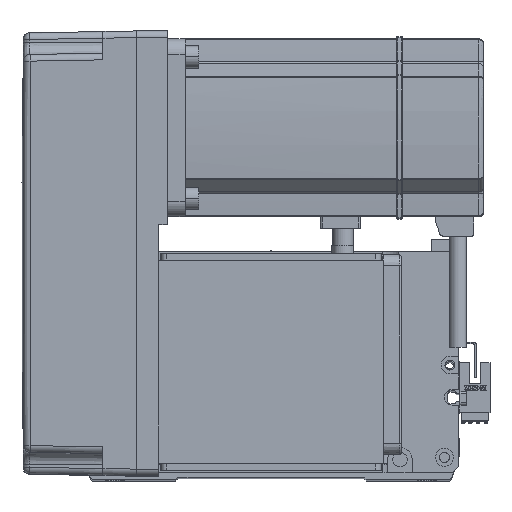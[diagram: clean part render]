
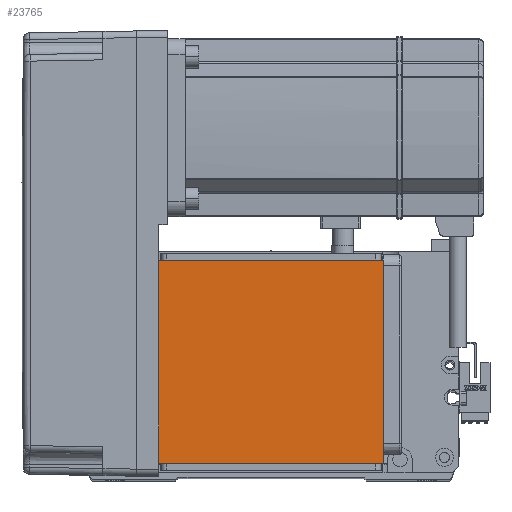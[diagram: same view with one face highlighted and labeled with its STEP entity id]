
A CAD part, top view. The second image highlights one B-rep face of the part: STEP entity #23765.
In plain terms, the highlighted planar face has unit normal (0, 0, 1).
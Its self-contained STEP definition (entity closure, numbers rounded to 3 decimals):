
#2901 = LINE ( 'NONE', #38821, #51304 ) ;
#4898 = EDGE_CURVE ( 'NONE', #30848, #42872, #2901, .T. ) ;
#7029 = DIRECTION ( 'NONE',  ( 0., 1., 0. ) ) ;
#7898 = EDGE_LOOP ( 'NONE', ( #49418, #32927, #21677, #44386 ) ) ;
#8182 = VECTOR ( 'NONE', #48693, 1000. ) ;
#10110 = VERTEX_POINT ( 'NONE', #45489 ) ;
#12083 = CARTESIAN_POINT ( 'NONE',  ( -50.5, 20., 115. ) ) ;
#12234 = LINE ( 'NONE', #48514, #8182 ) ;
#17072 = LINE ( 'NONE', #39555, #19769 ) ;
#19676 = LINE ( 'NONE', #32774, #43945 ) ;
#19769 = VECTOR ( 'NONE', #48011, 1000. ) ;
#21677 = ORIENTED_EDGE ( 'NONE', *, *, #4898, .F. ) ;
#22035 = DIRECTION ( 'NONE',  ( -1., 0., 0. ) ) ;
#23765 = ADVANCED_FACE ( 'NONE', ( #29493 ), #45313, .T. ) ;
#24050 = DIRECTION ( 'NONE',  ( 0., 0., 1. ) ) ;
#28214 = EDGE_CURVE ( 'NONE', #53587, #10110, #12234, .T. ) ;
#29493 = FACE_OUTER_BOUND ( 'NONE', #7898, .T. ) ;
#30848 = VERTEX_POINT ( 'NONE', #32257 ) ;
#32257 = CARTESIAN_POINT ( 'NONE',  ( 50.5, 20., 115. ) ) ;
#32774 = CARTESIAN_POINT ( 'NONE',  ( 50.5, 122., 115. ) ) ;
#32927 = ORIENTED_EDGE ( 'NONE', *, *, #55221, .T. ) ;
#37789 = DIRECTION ( 'NONE',  ( 1., 0., 0. ) ) ;
#38821 = CARTESIAN_POINT ( 'NONE',  ( -70.004, 20., 115. ) ) ;
#39555 = CARTESIAN_POINT ( 'NONE',  ( -50.5, 122., 115. ) ) ;
#42754 = EDGE_CURVE ( 'NONE', #30848, #10110, #19676, .T. ) ;
#42872 = VERTEX_POINT ( 'NONE', #12083 ) ;
#43945 = VECTOR ( 'NONE', #7029, 1000. ) ;
#44386 = ORIENTED_EDGE ( 'NONE', *, *, #42754, .T. ) ;
#45313 = PLANE ( 'NONE',  #49665 ) ;
#45489 = CARTESIAN_POINT ( 'NONE',  ( 50.5, 111.5, 115. ) ) ;
#46364 = CARTESIAN_POINT ( 'NONE',  ( -50.5, 111.5, 115. ) ) ;
#48011 = DIRECTION ( 'NONE',  ( 0., -1., 0. ) ) ;
#48514 = CARTESIAN_POINT ( 'NONE',  ( -70.004, 111.5, 115. ) ) ;
#48693 = DIRECTION ( 'NONE',  ( 1., 0., 0. ) ) ;
#49418 = ORIENTED_EDGE ( 'NONE', *, *, #28214, .F. ) ;
#49665 = AXIS2_PLACEMENT_3D ( 'NONE', #49831, #24050, #37789 ) ;
#49831 = CARTESIAN_POINT ( 'NONE',  ( 0., 0., 115. ) ) ;
#51304 = VECTOR ( 'NONE', #22035, 1000. ) ;
#53587 = VERTEX_POINT ( 'NONE', #46364 ) ;
#55221 = EDGE_CURVE ( 'NONE', #53587, #42872, #17072, .T. ) ;
